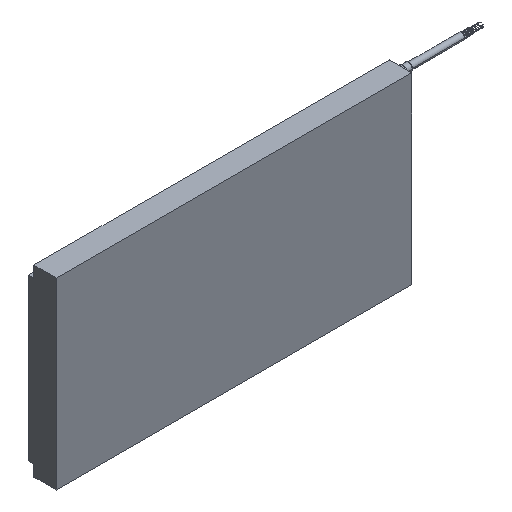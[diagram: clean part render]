
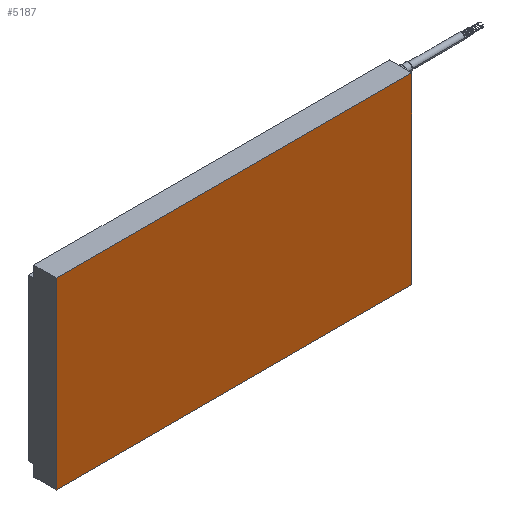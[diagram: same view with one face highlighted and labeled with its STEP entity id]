
A CAD part, isometric view. The second image highlights one B-rep face of the part: STEP entity #5187.
In plain terms, the highlighted planar face has unit normal (0, -1, 0).
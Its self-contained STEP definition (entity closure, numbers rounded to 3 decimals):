
#29=DIRECTION('',(0.,0.,-1.));
#30=VECTOR('',#29,285.);
#31=CARTESIAN_POINT('',(-276.1,0.,142.5));
#32=LINE('',#31,#30);
#33=DIRECTION('',(1.,0.,0.));
#34=VECTOR('',#33,552.2);
#35=CARTESIAN_POINT('',(-276.1,0.,-142.5));
#36=LINE('',#35,#34);
#37=DIRECTION('',(1.,0.,0.));
#38=VECTOR('',#37,552.2);
#39=CARTESIAN_POINT('',(-276.1,0.,142.5));
#40=LINE('',#39,#38);
#2981=DIRECTION('',(0.,0.,-1.));
#2982=VECTOR('',#2981,285.);
#2983=CARTESIAN_POINT('',(276.1,0.,142.5));
#2984=LINE('',#2983,#2982);
#3949=CARTESIAN_POINT('',(-276.1,0.,-142.5));
#3951=VERTEX_POINT('',#3949);
#3963=CARTESIAN_POINT('',(-276.1,0.,142.5));
#3964=VERTEX_POINT('',#3963);
#3965=CARTESIAN_POINT('',(276.1,0.,-142.5));
#3967=VERTEX_POINT('',#3965);
#3979=CARTESIAN_POINT('',(276.1,0.,142.5));
#3980=VERTEX_POINT('',#3979);
#5174=CARTESIAN_POINT('',(-276.1,0.,142.5));
#5175=DIRECTION('',(0.,-1.,0.));
#5176=DIRECTION('',(0.,0.,-1.));
#5177=AXIS2_PLACEMENT_3D('',#5174,#5175,#5176);
#5178=PLANE('',#5177);
#5179=ORIENTED_EDGE('',*,*,#5154,.F.);
#5181=ORIENTED_EDGE('',*,*,#5180,.T.);
#5183=ORIENTED_EDGE('',*,*,#5182,.T.);
#5184=ORIENTED_EDGE('',*,*,#5165,.F.);
#5185=EDGE_LOOP('',(#5179,#5181,#5183,#5184));
#5186=FACE_OUTER_BOUND('',#5185,.F.);
#5187=ADVANCED_FACE('',(#5186),#5178,.T.);
#5154=EDGE_CURVE('',#3964,#3951,#32,.T.);
#5165=EDGE_CURVE('',#3951,#3967,#36,.T.);
#5180=EDGE_CURVE('',#3964,#3980,#40,.T.);
#5182=EDGE_CURVE('',#3980,#3967,#2984,.T.);
